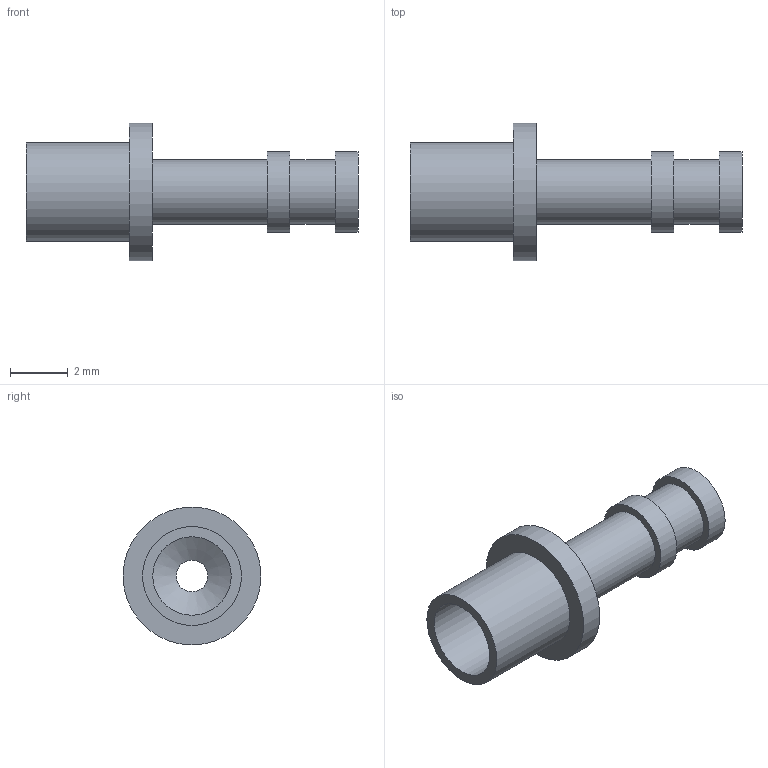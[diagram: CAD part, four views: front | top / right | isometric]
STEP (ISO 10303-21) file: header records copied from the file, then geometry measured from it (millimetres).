
FILE_DESCRIPTION(/* description */ (''),/* implementation_level */ '2;1');
FILE_NAME(/* name */ 'Z:\STEP folder\160-1798-03.ipt.stp',/* time_stamp */ '2016-12-07T10:48:59+00:00',/* author */ ('Paul Karlsons'),/* organization */ (''),/* preprocessor_version */ 'ST-DEVELOPER v15.2',/* originating_system */ 'Autodesk Inventor 2014',/* authorisation */ '');
FILE_SCHEMA (('AUTOMOTIVE_DESIGN { 1 0 10303 214 3 1 1 }'));
Length unit declared in the file: millimetre
Products named in the file (1): 160-1798-03
Bounding box: 11.5 x 4.78 x 4.78 mm (x, y, z)
Volume: 54.7 mm3; surface area: 197.4 mm2
Topology: 1 solids, 1 shells, 16 faces, 26 edges, 17 vertices
Faces by surface type: cylinder 8, plane 7, cone 1
Full cylindrical faces by diameter (mm): 1.092 x1, 2.235 x1, 2.236 x1, 2.718 x1, 2.794 x2, 3.429 x1, 4.775 x1
Entity records: 349 total; most frequent: DIRECTION 66, CARTESIAN_POINT 49, AXIS2_PLACEMENT_3D 33, EDGE_LOOP 32, ORIENTED_EDGE 32, FACE_BOUND 20, CIRCLE 16, VERTEX_POINT 16
